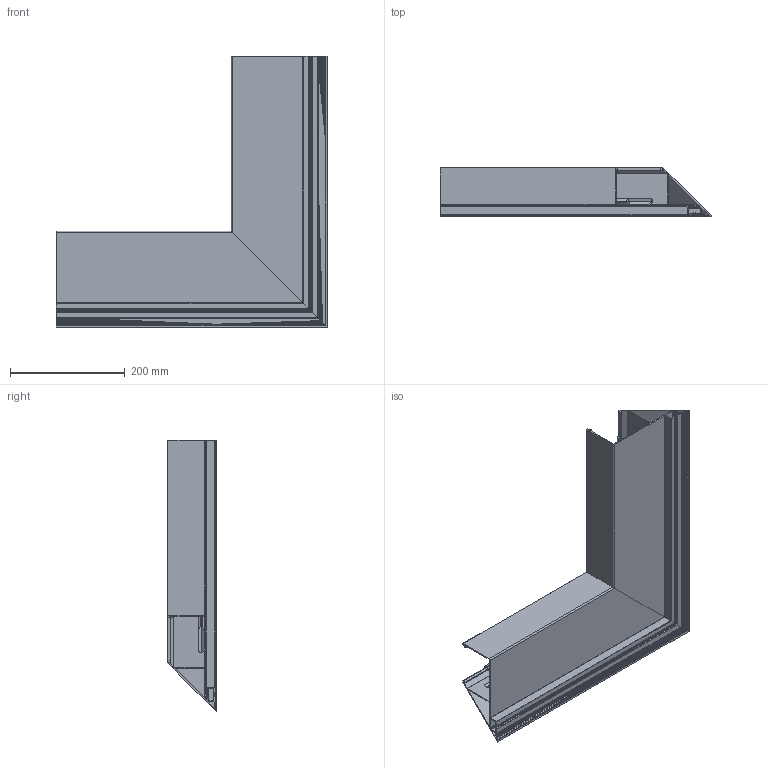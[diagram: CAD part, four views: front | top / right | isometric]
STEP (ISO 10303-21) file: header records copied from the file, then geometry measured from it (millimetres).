
FILE_DESCRIPTION (( 'STEP AP203' ), '1' );
FILE_NAME ('TROV 2 KNIFE EDGE COVE RAFT (OUTSIDE) CORNER.STEP', '2023-05-24T20:52:46', ( '' ), ( '' ), 'SwSTEP 2.0', 'SolidWorks 2022', '' );
FILE_SCHEMA (( 'CONFIG_CONTROL_DESIGN' ));
Length unit declared in the file: millimetre
Products named in the file (3): BAS-000027-01_BAS-000026-00; BAS-000027-02_BAS-000026-00; TROV 2 KNIFE EDGE COVE RAFT (OUTSIDE) CORNER
Assembly tree (2 placements, depth 2):
  TROV 2 KNIFE EDGE COVE RAFT (OUTSIDE) CORNER
    BAS-000027-01_BAS-000026-00
    BAS-000027-02_BAS-000026-00
Bounding box: 473.09 x 85.43 x 473.09 mm (x, y, z)
Volume: 763915.2 mm3; surface area: 750782.1 mm2
Topology: 2 solids, 2 shells, 262 faces, 770 edges, 512 vertices
Faces by surface type: cylinder 146, plane 116
Entity records: 8991 total; most frequent: CARTESIAN_POINT 1993, ORIENTED_EDGE 1540, DIRECTION 1296, EDGE_CURVE 770, VERTEX_POINT 512, LINE 482, VECTOR 482, AXIS2_PLACEMENT_3D 407
